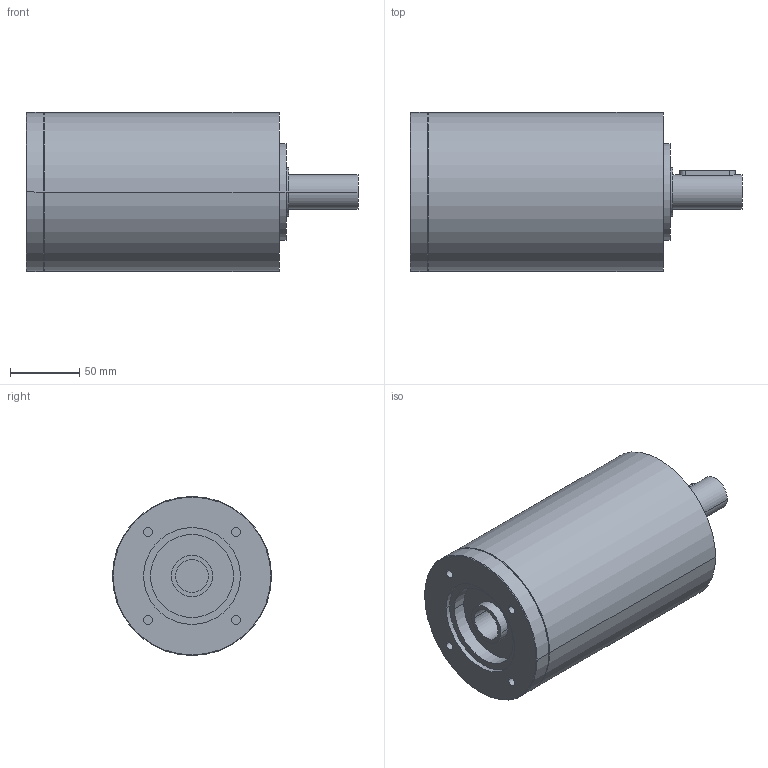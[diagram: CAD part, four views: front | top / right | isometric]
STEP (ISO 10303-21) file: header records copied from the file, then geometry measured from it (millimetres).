
FILE_DESCRIPTION(('CoCreate Modeling STEP Export'),'2;1');
FILE_NAME('GPR125_ig-9-12-16-20-28-35_25_B14_24_P17.stp','2014-08-26T14:11:25',(''),(''),'CoCreate Modeling STEP processor for AP214 (Solid Model)','CoCreate Modeling 16.00C 25-Feb-2009 (C) Parametric Technology GmbH','');
FILE_SCHEMA(('AUTOMOTIVE_DESIGN { 1 0 10303 214 1 1 1 1 }'));
Length unit declared in the file: millimetre
Products named in the file (2): GPR125_ig-9-12-16-20-28-35_25_B14_24_P17
Assembly tree (1 placements, depth 2):
  GPR125_ig-9-12-16-20-28-35_25_B14_24_P17
    GPR125_ig-9-12-16-20-28-35_25_B14_24_P17
Bounding box: 240 x 115 x 115 mm (x, y, z)
Volume: 1879771.4 mm3; surface area: 103680.6 mm2
Topology: 1 solids, 1 shells, 67 faces, 166 edges, 116 vertices
Faces by surface type: cylinder 38, plane 21, cone 8
Entity records: 1700 total; most frequent: ORIENTED_EDGE 328, CARTESIAN_POINT 320, DIRECTION 220, EDGE_CURVE 164, VERTEX_POINT 116, AXIS2_PLACEMENT_3D 84, EDGE_LOOP 84, FACE_OUTER_BOUND 67
